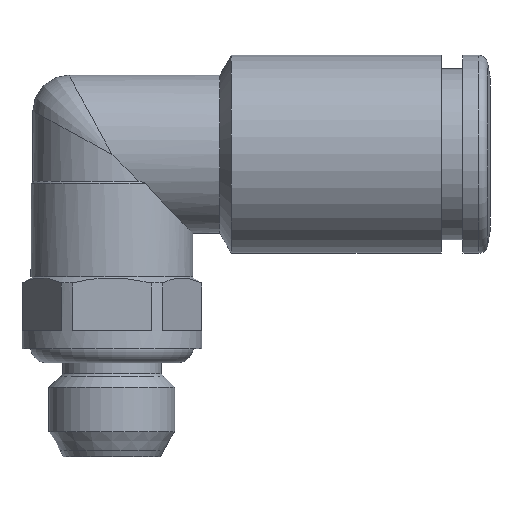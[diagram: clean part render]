
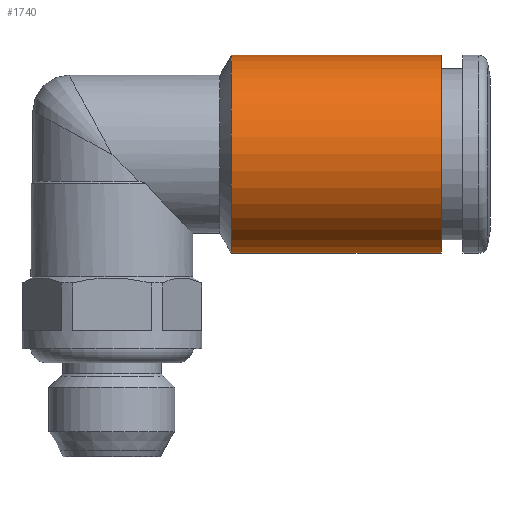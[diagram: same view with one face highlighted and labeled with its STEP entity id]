
A CAD part, front view. The second image highlights one B-rep face of the part: STEP entity #1740.
In plain terms, the highlighted cylindrical face has radius 5.5 mm (diameter 11 mm), a full revolution.
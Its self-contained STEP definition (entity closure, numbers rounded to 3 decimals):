
#1740=ADVANCED_FACE('', (#1750,#1760), #1770, .T.);
#5700=AXIS2_PLACEMENT_3D('Ax2Pl3d', #5710, #5720, #5730);
#6660=AXIS2_PLACEMENT_3D('Ax2Pl3d', #6670, #6680, #6690);
#6700=AXIS2_PLACEMENT_3D('Ax2Pl3d', #6710, #6720, #6730);
#5710=CARTESIAN_POINT('HicPkt', (27.713,10.529,
18.914));
#21740=CARTESIAN_POINT('', (27.713,10.529,24.414));
#6670=CARTESIAN_POINT('HicPkt', (16.048,10.529,
18.914));
#21880=CARTESIAN_POINT('', (16.048,10.529,24.414));
#6710=CARTESIAN_POINT('HicPkt', (16.048,10.529,
18.914));
#22850=CIRCLE('Circle', #5700, 5.5);
#22950=CIRCLE('Circle', #6660, 5.5);
#1770=CYLINDRICAL_SURFACE('Zyl', #6700, 5.5);
#5720=DIRECTION('Axis', (-1.,0.,0.)
);
#5730=DIRECTION('RefDirection', (0.,
0.,-1.));
#6680=DIRECTION('Axis', (-1.,0.,0.))
;
#6690=DIRECTION('RefDirection', (0.,
0.,-1.));
#6720=DIRECTION('Axis', (1.,0.,0.));
#6730=DIRECTION('RefDirection', (0.,0.,-1.));
#27430=EDGE_CURVE('', #27440, #27440, #22850, .T.);
#27810=EDGE_CURVE('', #27820, #27820, #22950, .T.);
#30860=EDGE_LOOP('Edge_loop', (#30870));
#30880=EDGE_LOOP('Edge_loop', (#30890));
#1760=FACE_BOUND('', #30880, .T.);
#1750=FACE_OUTER_BOUND('Face_outer_bound', #30860, .T.);
#30870=ORIENTED_EDGE('', *, *, #27430, .T.);
#30890=ORIENTED_EDGE('', *, *, #27810, .F.);
#27440=VERTEX_POINT('', #21740);
#27820=VERTEX_POINT('', #21880);
